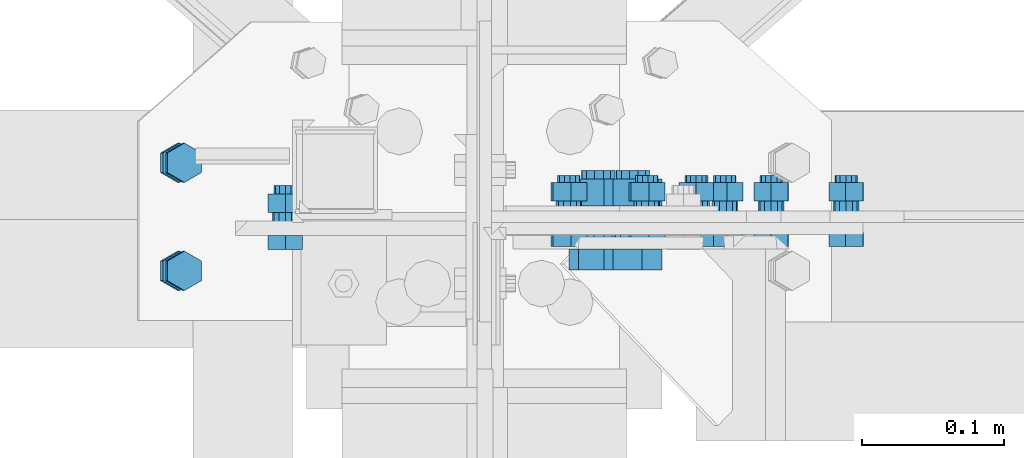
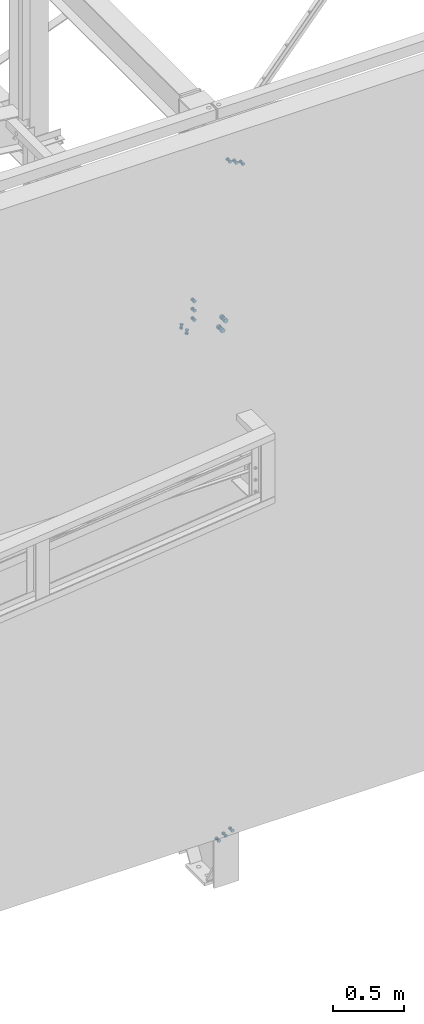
# One storey, part 109 of 3134: 5 mechanical fasteners, 4 elements without a shape of their own.
"""IFC2X3 building model written with IfcOpenShell, lengths in millimetres."""

from ifc_helpers import new_model, si_unit, frame, origin_with_axes, place, context, subcontext, project, spatial, faceted_brep, source, transform, mapped, material, type_object, element, aggregate, save


model = new_model("IFC2X3")

# Units and contexts
model_context = context("Model", 3, precision=1e-05, world=origin_with_axes())
body_context = subcontext(model_context, "Body", "Model", "MODEL_VIEW")
ifc_project = project(units=[si_unit("LENGTHUNIT", "METRE", prefix="MILLI"), si_unit("AREAUNIT", "SQUARE_METRE"), si_unit("VOLUMEUNIT", "CUBIC_METRE"), si_unit("MASSUNIT", "GRAM", prefix="KILO"), si_unit("TIMEUNIT", "SECOND"), si_unit("PLANEANGLEUNIT", "RADIAN"), si_unit("SOLIDANGLEUNIT", "STERADIAN"), si_unit("THERMODYNAMICTEMPERATUREUNIT", "DEGREE_CELSIUS"), si_unit("LUMINOUSINTENSITYUNIT", "LUMEN")], contexts=[model_context])

# Site, building, storey
site_placement = place(None, origin_with_axes())
site = spatial("IfcSite", under=ifc_project, at=site_placement, CompositionType="ELEMENT")
building_placement = place(site_placement, origin_with_axes())
building = spatial("IfcBuilding", under=site, at=building_placement, Name="Undefined", CompositionType="ELEMENT")
storey_placement = place(building_placement, origin_with_axes())
storey = spatial("IfcBuildingStorey", under=building, at=storey_placement, Name="Undefined", CompositionType="ELEMENT", Elevation=0.0)

# Assembly, mechanical fastener
assembly_1_placement = place(storey_placement, origin_with_axes())
assembly_1 = element("IfcElementAssembly", 1, at=assembly_1_placement, inside=storey, Name="300", AssemblyPlace="NOTDEFINED", PredefinedType="RIGID_FRAME")
ifc_material = material(Name="8.8")
mechanical_fastener_type = type_object("IfcMechanicalFastenerType", Name="Bolt assembly")
shared_shape_1 = source(origin_with_axes(), body_context, "Body", "Brep", [
    faceted_brep([(13.856406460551, -23.0499999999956, 0.0), (6.92820323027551, -23.0499999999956, 12.0), (-6.92820323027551, -23.0499999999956, 12.0), (-13.856406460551, -23.0499999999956, 1.69692038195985e-15), (-6.92820323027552, -23.0499999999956, -12.0), (6.9282032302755, -23.0499999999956, -12.0), (6.9282032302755, -13.0499999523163, -12.0), (-6.92820323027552, -13.0499999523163, -12.0), (-13.856406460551, -13.0499999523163, 1.69692038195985e-15), (-6.92820323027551, -13.0499999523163, 12.0), (6.92820323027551, -13.0499999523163, 12.0), (13.856406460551, -13.0499999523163, 0.0), (8.0, -13.0499999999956, 0.0), (6.92820323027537, -13.0499999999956, 4.00000000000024), (3.99999999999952, -13.0499999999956, 6.92820323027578), (-8.29068785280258e-13, -13.0499999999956, 8.0), (-4.00000000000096, -13.0499999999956, 6.92820323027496), (-6.9282032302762, -13.0499999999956, 3.99999999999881), (-8.0, -13.0499999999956, -1.65813757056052e-12), (-6.92820323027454, -13.0499999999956, -4.00000000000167), (-3.99999999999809, -13.0499999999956, -6.92820323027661), (2.47832457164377e-12, -13.0499999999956, -8.0), (4.00000000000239, -13.0499999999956, -6.92820323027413), (6.92820323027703, -13.0499999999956, -3.99999999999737), (6.92820323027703, 21.9500000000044, -3.99999999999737), (4.00000000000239, 21.9500000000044, -6.92820323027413), (2.47832457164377e-12, 21.9500000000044, -8.0), (-3.99999999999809, 21.9500000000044, -6.92820323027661), (-6.92820323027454, 21.9500000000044, -4.00000000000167), (-8.0, 21.9500000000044, -1.65813757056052e-12), (-6.9282032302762, 21.9500000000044, 3.99999999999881), (-4.00000000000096, 21.9500000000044, 6.92820323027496), (-8.29068785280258e-13, 21.9500000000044, 8.0), (3.99999999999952, 21.9500000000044, 6.92820323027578), (6.92820323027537, 21.9500000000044, 4.00000000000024), (8.0, 21.9500000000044, 0.0), (13.856406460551, 3.04999995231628, 0.0), (6.92820323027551, 3.04999995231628, 12.0), (-6.92820323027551, 3.04999995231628, 12.0), (-13.856406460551, 3.04999995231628, 1.69692038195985e-15), (-6.92820323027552, 3.04999995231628, -12.0), (6.9282032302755, 3.04999995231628, -12.0), (6.9282032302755, 16.0499999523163, -12.0), (-6.92820323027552, 16.0499999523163, -12.0), (-13.856406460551, 16.0499999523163, 1.69692038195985e-15), (-6.92820323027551, 16.0499999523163, 12.0), (6.92820323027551, 16.0499999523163, 12.0), (13.856406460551, 16.0499999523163, 0.0)], [[[0, 1, 2, 3, 4, 5]], [[6, 7, 8, 9, 10, 11]], [[0, 11, 10, 1]], [[1, 10, 9, 2]], [[2, 9, 8, 3]], [[3, 8, 7, 4]], [[4, 7, 6, 5]], [[5, 6, 11, 0]], [[12, 13, 14, 15, 16, 17, 18, 19, 20, 21, 22, 23]], [[24, 25, 26, 27, 28, 29, 30, 31, 32, 33, 34, 35]], [[12, 35, 34, 13]], [[13, 34, 33, 14]], [[14, 33, 32, 15]], [[15, 32, 31, 16]], [[16, 31, 30, 17]], [[17, 30, 29, 18]], [[18, 29, 28, 19]], [[19, 28, 27, 20]], [[20, 27, 26, 21]], [[21, 26, 25, 22]], [[22, 25, 24, 23]], [[23, 24, 35, 12]], [[36, 37, 38, 39, 40, 41]], [[42, 43, 44, 45, 46, 47]], [[36, 47, 46, 37]], [[37, 46, 45, 38]], [[38, 45, 44, 39]], [[39, 44, 43, 40]], [[40, 43, 42, 41]], [[41, 42, 47, 36]]]),
    faceted_brep([(9.0, -12.9499999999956, 0.0), (7.79422863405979, -12.9499999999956, 4.50000000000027), (4.49999999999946, -12.9499999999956, 7.79422863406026), (-9.3270238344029e-13, -12.9499999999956, 9.0), (-4.50000000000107, -12.9499999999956, 7.79422863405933), (-7.79422863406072, -12.9499999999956, 4.49999999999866), (-9.0, -12.9499999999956, -1.86540476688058e-12), (-7.79422863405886, -12.9499999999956, -4.50000000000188), (-4.49999999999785, -12.9499999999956, -7.79422863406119), (2.78811514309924e-12, -12.9499999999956, -9.0), (4.50000000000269, -12.9499999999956, -7.7942286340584), (7.79422863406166, -12.9499999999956, -4.49999999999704), (7.79422863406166, -2.94999995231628, -4.49999999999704), (4.50000000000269, -2.94999995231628, -7.7942286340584), (2.78811514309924e-12, -2.94999995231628, -9.0), (-4.49999999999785, -2.94999995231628, -7.79422863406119), (-7.79422863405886, -2.94999995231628, -4.50000000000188), (-9.0, -2.94999995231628, -1.86540476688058e-12), (-7.79422863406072, -2.94999995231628, 4.49999999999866), (-4.50000000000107, -2.94999995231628, 7.79422863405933), (-9.3270238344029e-13, -2.94999995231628, 9.0), (4.49999999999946, -2.94999995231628, 7.79422863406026), (7.79422863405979, -2.94999995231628, 4.50000000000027), (9.0, -2.94999995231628, 0.0), (9.0, -3.14999995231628, 0.0), (7.79422863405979, -3.14999995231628, 4.50000000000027), (4.49999999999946, -3.14999995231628, 7.79422863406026), (-9.3270238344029e-13, -3.14999995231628, 9.0), (-4.50000000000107, -3.14999995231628, 7.79422863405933), (-7.79422863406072, -3.14999995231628, 4.49999999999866), (-9.0, -3.14999995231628, -1.86540476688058e-12), (-7.79422863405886, -3.14999995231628, -4.50000000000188), (-4.49999999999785, -3.14999995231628, -7.79422863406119), (2.78811514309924e-12, -3.14999995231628, -9.0), (4.50000000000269, -3.14999995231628, -7.7942286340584), (7.79422863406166, -3.14999995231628, -4.49999999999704), (7.79422863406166, 3.04999995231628, -4.49999999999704), (4.50000000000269, 3.04999995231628, -7.7942286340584), (2.78811514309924e-12, 3.04999995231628, -9.0), (-4.49999999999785, 3.04999995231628, -7.79422863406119), (-7.79422863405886, 3.04999995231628, -4.50000000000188), (-9.0, 3.04999995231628, -1.86540476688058e-12), (-7.79422863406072, 3.04999995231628, 4.49999999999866), (-4.50000000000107, 3.04999995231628, 7.79422863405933), (-9.3270238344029e-13, 3.04999995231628, 9.0), (4.49999999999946, 3.04999995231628, 7.79422863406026), (7.79422863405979, 3.04999995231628, 4.50000000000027), (9.0, 3.04999995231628, 0.0)], [[[0, 1, 2, 3, 4, 5, 6, 7, 8, 9, 10, 11]], [[12, 13, 14, 15, 16, 17, 18, 19, 20, 21, 22, 23]], [[0, 23, 22, 1]], [[1, 22, 21, 2]], [[2, 21, 20, 3]], [[3, 20, 19, 4]], [[4, 19, 18, 5]], [[5, 18, 17, 6]], [[6, 17, 16, 7]], [[7, 16, 15, 8]], [[8, 15, 14, 9]], [[9, 14, 13, 10]], [[10, 13, 12, 11]], [[11, 12, 23, 0]], [[24, 25, 26, 27, 28, 29, 30, 31, 32, 33, 34, 35]], [[36, 37, 38, 39, 40, 41, 42, 43, 44, 45, 46, 47]], [[24, 47, 46, 25]], [[25, 46, 45, 26]], [[26, 45, 44, 27]], [[27, 44, 43, 28]], [[28, 43, 42, 29]], [[29, 42, 41, 30]], [[30, 41, 40, 31]], [[31, 40, 39, 32]], [[32, 39, 38, 33]], [[33, 38, 37, 34]], [[34, 37, 36, 35]], [[35, 36, 47, 24]]]),
])
mechanical_fastener_1_placement = place(assembly_1_placement, frame((44060.0000000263, 0.0, 4340.49269268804), z_axis=(1.0, 0.0, 0.0), x_axis=(0.0, 0.0, -1.0)))
mechanical_fastener_1 = element("IfcMechanicalFastener", 2, at=mechanical_fastener_1_placement, type_object=mechanical_fastener_type, material=ifc_material, Name="Bolt assembly", NominalDiameter=16.0, NominalLength=35.0, context=body_context, shape_type="MappedRepresentation", body=[
    mapped(shared_shape_1, transform((0.0, 0.0, 0.0))),
    mapped(shared_shape_1, transform((80.0, 0.0, 0.0))),
    mapped(shared_shape_1, transform((160.0, 0.0, 0.0))),
])

assembly_2_placement = place(storey_placement, origin_with_axes())
assembly_2 = element("IfcElementAssembly", 3, at=assembly_2_placement, inside=storey, AssemblyPlace="NOTDEFINED", PredefinedType="RIGID_FRAME")
shared_shape_2 = source(origin_with_axes(), body_context, "Body", "Brep", [
    faceted_brep([(13.856406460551, -21.0000017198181, 0.0), (6.92820323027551, -21.0000017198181, 12.0), (-6.92820323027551, -21.0000017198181, 12.0), (-13.856406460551, -21.0000017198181, 1.69692038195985e-15), (-6.92820323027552, -21.0000017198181, -12.0), (6.9282032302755, -21.0000017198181, -12.0), (6.9282032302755, -11.0000017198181, -12.0), (-6.92820323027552, -11.0000017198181, -12.0), (-13.856406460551, -11.0000017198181, 1.69692038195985e-15), (-6.92820323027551, -11.0000017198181, 12.0), (6.92820323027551, -11.0000017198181, 12.0), (13.856406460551, -11.0000017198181, 0.0), (8.0, -11.0000017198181, 0.0), (6.92820323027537, -11.0000017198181, 4.00000000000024), (3.99999999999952, -11.0000017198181, 6.92820323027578), (-8.29068785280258e-13, -11.0000017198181, 8.0), (-4.00000000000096, -11.0000017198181, 6.92820323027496), (-6.9282032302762, -11.0000017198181, 3.99999999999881), (-8.0, -11.0000017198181, -1.65813757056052e-12), (-6.92820323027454, -11.0000017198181, -4.00000000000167), (-3.99999999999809, -11.0000017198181, -6.92820323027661), (2.47832457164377e-12, -11.0000017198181, -8.0), (4.00000000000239, -11.0000017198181, -6.92820323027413), (6.92820323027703, -11.0000017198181, -3.99999999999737), (6.92820323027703, 29.0, -3.99999999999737), (4.00000000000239, 29.0, -6.92820323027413), (2.47832457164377e-12, 29.0, -8.0), (-3.99999999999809, 29.0, -6.92820323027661), (-6.92820323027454, 29.0, -4.00000000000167), (-8.0, 29.0, -1.65813757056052e-12), (-6.9282032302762, 29.0, 3.99999999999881), (-4.00000000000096, 29.0, 6.92820323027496), (-8.29068785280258e-13, 29.0, 8.0), (3.99999999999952, 29.0, 6.92820323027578), (6.92820323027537, 29.0, 4.00000000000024), (8.0, 29.0, 0.0), (13.856406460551, 10.9999982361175, 0.0), (6.92820323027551, 10.9999982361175, 12.0), (-6.92820323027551, 10.9999982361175, 12.0), (-13.856406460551, 10.9999982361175, 1.69692038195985e-15), (-6.92820323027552, 10.9999982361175, -12.0), (6.9282032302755, 10.9999982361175, -12.0), (6.9282032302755, 23.9999999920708, -12.0), (-6.92820323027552, 23.9999999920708, -12.0), (-13.856406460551, 23.9999999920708, 1.69692038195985e-15), (-6.92820323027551, 23.9999999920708, 12.0), (6.92820323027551, 23.9999999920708, 12.0), (13.856406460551, 23.9999999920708, 0.0)], [[[0, 1, 2, 3, 4, 5]], [[6, 7, 8, 9, 10, 11]], [[0, 11, 10, 1]], [[1, 10, 9, 2]], [[2, 9, 8, 3]], [[3, 8, 7, 4]], [[4, 7, 6, 5]], [[5, 6, 11, 0]], [[12, 13, 14, 15, 16, 17, 18, 19, 20, 21, 22, 23]], [[24, 25, 26, 27, 28, 29, 30, 31, 32, 33, 34, 35]], [[12, 35, 34, 13]], [[13, 34, 33, 14]], [[14, 33, 32, 15]], [[15, 32, 31, 16]], [[16, 31, 30, 17]], [[17, 30, 29, 18]], [[18, 29, 28, 19]], [[19, 28, 27, 20]], [[20, 27, 26, 21]], [[21, 26, 25, 22]], [[22, 25, 24, 23]], [[23, 24, 35, 12]], [[36, 37, 38, 39, 40, 41]], [[42, 43, 44, 45, 46, 47]], [[36, 47, 46, 37]], [[37, 46, 45, 38]], [[38, 45, 44, 39]], [[39, 44, 43, 40]], [[40, 43, 42, 41]], [[41, 42, 47, 36]]]),
    faceted_brep([(9.0, -10.9000017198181, 0.0), (7.79422863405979, -10.9000017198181, 4.50000000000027), (4.49999999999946, -10.9000017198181, 7.79422863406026), (-9.3270238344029e-13, -10.9000017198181, 9.0), (-4.50000000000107, -10.9000017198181, 7.79422863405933), (-7.79422863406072, -10.9000017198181, 4.49999999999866), (-9.0, -10.9000017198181, -1.86540476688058e-12), (-7.79422863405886, -10.9000017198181, -4.50000000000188), (-4.49999999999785, -10.9000017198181, -7.79422863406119), (2.78811514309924e-12, -10.9000017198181, -9.0), (4.50000000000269, -10.9000017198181, -7.7942286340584), (7.79422863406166, -10.9000017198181, -4.49999999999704), (7.79422863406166, -3.9, -4.49999999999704), (4.50000000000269, -3.9, -7.7942286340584), (2.78811514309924e-12, -3.9, -9.0), (-4.49999999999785, -3.9, -7.79422863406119), (-7.79422863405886, -3.9, -4.50000000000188), (-9.0, -3.9, -1.86540476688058e-12), (-7.79422863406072, -3.9, 4.49999999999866), (-4.50000000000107, -3.9, 7.79422863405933), (-9.3270238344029e-13, -3.9, 9.0), (4.49999999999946, -3.9, 7.79422863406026), (7.79422863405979, -3.9, 4.50000000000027), (9.0, -3.9, 0.0), (9.0, 3.9, 0.0), (7.79422863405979, 3.9, 4.50000000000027), (4.49999999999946, 3.9, 7.79422863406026), (-9.3270238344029e-13, 3.9, 9.0), (-4.50000000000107, 3.9, 7.79422863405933), (-7.79422863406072, 3.9, 4.49999999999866), (-9.0, 3.9, -1.86540476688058e-12), (-7.79422863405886, 3.9, -4.50000000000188), (-4.49999999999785, 3.9, -7.79422863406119), (2.78811514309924e-12, 3.9, -9.0), (4.50000000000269, 3.9, -7.7942286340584), (7.79422863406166, 3.9, -4.49999999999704), (7.79422863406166, 10.9999982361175, -4.49999999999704), (4.50000000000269, 10.9999982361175, -7.7942286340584), (2.78811514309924e-12, 10.9999982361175, -9.0), (-4.49999999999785, 10.9999982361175, -7.79422863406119), (-7.79422863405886, 10.9999982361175, -4.50000000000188), (-9.0, 10.9999982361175, -1.86540476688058e-12), (-7.79422863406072, 10.9999982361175, 4.49999999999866), (-4.50000000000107, 10.9999982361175, 7.79422863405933), (-9.3270238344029e-13, 10.9999982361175, 9.0), (4.49999999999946, 10.9999982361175, 7.79422863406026), (7.79422863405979, 10.9999982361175, 4.50000000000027), (9.0, 10.9999982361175, 0.0), (9.0, -3.99999624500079, 0.0), (7.79422863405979, -3.99999624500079, 4.50000000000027), (4.49999999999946, -3.99999624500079, 7.79422863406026), (-9.3270238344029e-13, -3.99999624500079, 9.0), (-4.50000000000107, -3.99999624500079, 7.79422863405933), (-7.79422863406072, -3.99999624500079, 4.49999999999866), (-9.0, -3.99999624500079, -1.86540476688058e-12), (-7.79422863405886, -3.99999624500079, -4.50000000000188), (-4.49999999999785, -3.99999624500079, -7.79422863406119), (2.78811514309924e-12, -3.99999624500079, -9.0), (4.50000000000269, -3.99999624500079, -7.7942286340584), (7.79422863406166, -3.99999624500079, -4.49999999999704), (7.79422863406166, 4.00000375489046, -4.49999999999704), (4.50000000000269, 4.00000375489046, -7.7942286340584), (2.78811514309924e-12, 4.00000375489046, -9.0), (-4.49999999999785, 4.00000375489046, -7.79422863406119), (-7.79422863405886, 4.00000375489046, -4.50000000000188), (-9.0, 4.00000375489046, -1.86540476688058e-12), (-7.79422863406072, 4.00000375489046, 4.49999999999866), (-4.50000000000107, 4.00000375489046, 7.79422863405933), (-9.3270238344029e-13, 4.00000375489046, 9.0), (4.49999999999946, 4.00000375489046, 7.79422863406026), (7.79422863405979, 4.00000375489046, 4.50000000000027), (9.0, 4.00000375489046, 0.0)], [[[0, 1, 2, 3, 4, 5, 6, 7, 8, 9, 10, 11]], [[12, 13, 14, 15, 16, 17, 18, 19, 20, 21, 22, 23]], [[0, 23, 22, 1]], [[1, 22, 21, 2]], [[2, 21, 20, 3]], [[3, 20, 19, 4]], [[4, 19, 18, 5]], [[5, 18, 17, 6]], [[6, 17, 16, 7]], [[7, 16, 15, 8]], [[8, 15, 14, 9]], [[9, 14, 13, 10]], [[10, 13, 12, 11]], [[11, 12, 23, 0]], [[24, 25, 26, 27, 28, 29, 30, 31, 32, 33, 34, 35]], [[36, 37, 38, 39, 40, 41, 42, 43, 44, 45, 46, 47]], [[24, 47, 46, 25]], [[25, 46, 45, 26]], [[26, 45, 44, 27]], [[27, 44, 43, 28]], [[28, 43, 42, 29]], [[29, 42, 41, 30]], [[30, 41, 40, 31]], [[31, 40, 39, 32]], [[32, 39, 38, 33]], [[33, 38, 37, 34]], [[34, 37, 36, 35]], [[35, 36, 47, 24]], [[48, 49, 50, 51, 52, 53, 54, 55, 56, 57, 58, 59]], [[60, 61, 62, 63, 64, 65, 66, 67, 68, 69, 70, 71]], [[48, 71, 70, 49]], [[49, 70, 69, 50]], [[50, 69, 68, 51]], [[51, 68, 67, 52]], [[52, 67, 66, 53]], [[53, 66, 65, 54]], [[54, 65, 64, 55]], [[55, 64, 63, 56]], [[56, 63, 62, 57]], [[57, 62, 61, 58]], [[58, 61, 60, 59]], [[59, 60, 71, 48]]]),
])
mechanical_fastener_2_placement = place(assembly_2_placement, frame((44259.4190258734, 0.0, -348.647370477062), z_axis=(-0.405421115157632, 0.0, 0.914130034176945), x_axis=(0.914130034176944, 0.0, 0.405421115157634)))
mechanical_fastener_2 = element("IfcMechanicalFastener", 4, at=mechanical_fastener_2_placement, type_object=mechanical_fastener_type, material=ifc_material, Name="Bolt assembly", NominalDiameter=16.0, NominalLength=40.0, context=body_context, shape_type="MappedRepresentation", body=[
    mapped(shared_shape_2, transform((0.0, 0.0, 0.0))),
    mapped(shared_shape_2, transform((59.9999999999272, 0.0, 5.40239852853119e-10))),
    mapped(shared_shape_2, transform((120.0, 0.0, 0.0))),
])
aggregate(assembly_2, [mechanical_fastener_2])

assembly_3_placement = place(storey_placement, origin_with_axes())
assembly_3 = element("IfcElementAssembly", 5, at=assembly_3_placement, inside=storey, AssemblyPlace="NOTDEFINED", PredefinedType="RIGID_FRAME")
mechanical_fastener_3_placement = place(assembly_3_placement, frame((44349.1050855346, 0.0, 5434.10633453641), z_axis=(0.480332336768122, 0.0, 0.877086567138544), x_axis=(0.877086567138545, 0.0, -0.48033233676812)))
mechanical_fastener_3 = element("IfcMechanicalFastener", 6, at=mechanical_fastener_3_placement, type_object=mechanical_fastener_type, material=ifc_material, Name="Bolt assembly", NominalDiameter=16.0, NominalLength=40.0, context=body_context, shape_type="MappedRepresentation", body=[
    mapped(shared_shape_2, transform((0.0, 0.0, 0.0))),
    mapped(shared_shape_2, transform((59.9999999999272, 0.0, 5.40239852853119e-10))),
    mapped(shared_shape_2, transform((120.0, 0.0, 0.0))),
])
aggregate(assembly_3, [mechanical_fastener_3])

# Mechanical fastener
shared_shape_3 = source(origin_with_axes(), body_context, "Body", "Brep", [
    faceted_brep([(13.856406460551, -19.2035068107, 0.0), (6.92820323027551, -19.2035068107, 12.0), (-6.92820323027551, -19.2035068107, 12.0), (-13.856406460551, -19.2035068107, 1.69692038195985e-15), (-6.92820323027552, -19.2035068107, -12.0), (6.9282032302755, -19.2035068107, -12.0), (6.9282032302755, -9.20350681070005, -12.0), (-6.92820323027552, -9.20350681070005, -12.0), (-13.856406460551, -9.20350681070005, 1.69692038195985e-15), (-6.92820323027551, -9.20350681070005, 12.0), (6.92820323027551, -9.20350681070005, 12.0), (13.856406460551, -9.20350681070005, 0.0), (8.0, -9.20350681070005, 0.0), (6.92820323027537, -9.20350681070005, 4.00000000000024), (3.99999999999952, -9.20350681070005, 6.92820323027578), (-8.29068785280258e-13, -9.20350681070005, 8.0), (-4.00000000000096, -9.20350681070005, 6.92820323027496), (-6.9282032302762, -9.20350681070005, 3.99999999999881), (-8.0, -9.20350681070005, -1.65813757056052e-12), (-6.92820323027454, -9.20350681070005, -4.00000000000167), (-3.99999999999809, -9.20350681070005, -6.92820323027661), (2.47832457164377e-12, -9.20350681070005, -8.0), (4.00000000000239, -9.20350681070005, -6.92820323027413), (6.92820323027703, -9.20350681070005, -3.99999999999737), (6.92820323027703, 25.7964931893, -3.99999999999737), (4.00000000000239, 25.7964931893, -6.92820323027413), (2.47832457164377e-12, 25.7964931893, -8.0), (-3.99999999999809, 25.7964931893, -6.92820323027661), (-6.92820323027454, 25.7964931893, -4.00000000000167), (-8.0, 25.7964931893, -1.65813757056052e-12), (-6.9282032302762, 25.7964931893, 3.99999999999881), (-4.00000000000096, 25.7964931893, 6.92820323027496), (-8.29068785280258e-13, 25.7964931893, 8.0), (3.99999999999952, 25.7964931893, 6.92820323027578), (6.92820323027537, 25.7964931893, 4.00000000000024), (8.0, 25.7964931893, 0.0), (13.856406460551, 7.99368960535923, 0.0), (6.92820323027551, 7.99368960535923, 12.0), (-6.92820323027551, 7.99368960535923, 12.0), (-13.856406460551, 7.99368960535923, 1.69692038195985e-15), (-6.92820323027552, 7.99368960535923, -12.0), (6.9282032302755, 7.99368960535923, -12.0), (6.9282032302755, 20.9936896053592, -12.0), (-6.92820323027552, 20.9936896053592, -12.0), (-13.856406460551, 20.9936896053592, 1.69692038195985e-15), (-6.92820323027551, 20.9936896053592, 12.0), (6.92820323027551, 20.9936896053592, 12.0), (13.856406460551, 20.9936896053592, 0.0)], [[[0, 1, 2, 3, 4, 5]], [[6, 7, 8, 9, 10, 11]], [[0, 11, 10, 1]], [[1, 10, 9, 2]], [[2, 9, 8, 3]], [[3, 8, 7, 4]], [[4, 7, 6, 5]], [[5, 6, 11, 0]], [[12, 13, 14, 15, 16, 17, 18, 19, 20, 21, 22, 23]], [[24, 25, 26, 27, 28, 29, 30, 31, 32, 33, 34, 35]], [[12, 35, 34, 13]], [[13, 34, 33, 14]], [[14, 33, 32, 15]], [[15, 32, 31, 16]], [[16, 31, 30, 17]], [[17, 30, 29, 18]], [[18, 29, 28, 19]], [[19, 28, 27, 20]], [[20, 27, 26, 21]], [[21, 26, 25, 22]], [[22, 25, 24, 23]], [[23, 24, 35, 12]], [[36, 37, 38, 39, 40, 41]], [[42, 43, 44, 45, 46, 47]], [[36, 47, 46, 37]], [[37, 46, 45, 38]], [[38, 45, 44, 39]], [[39, 44, 43, 40]], [[40, 43, 42, 41]], [[41, 42, 47, 36]]]),
    faceted_brep([(9.0, -0.106310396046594, 0.0), (7.79422863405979, -0.106310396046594, 4.50000000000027), (4.49999999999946, -0.106310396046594, 7.79422863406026), (-9.3270238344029e-13, -0.106310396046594, 9.0), (-4.50000000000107, -0.106310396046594, 7.79422863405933), (-7.79422863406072, -0.106310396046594, 4.49999999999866), (-9.0, -0.106310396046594, -1.86540476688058e-12), (-7.79422863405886, -0.106310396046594, -4.50000000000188), (-4.49999999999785, -0.106310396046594, -7.79422863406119), (2.78811514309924e-12, -0.106310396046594, -9.0), (4.50000000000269, -0.106310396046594, -7.7942286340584), (7.79422863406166, -0.106310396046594, -4.49999999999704), (7.79422863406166, 7.99368960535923, -4.49999999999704), (4.50000000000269, 7.99368960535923, -7.7942286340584), (2.78811514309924e-12, 7.99368960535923, -9.0), (-4.49999999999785, 7.99368960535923, -7.79422863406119), (-7.79422863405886, 7.99368960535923, -4.50000000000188), (-9.0, 7.99368960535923, -1.86540476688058e-12), (-7.79422863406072, 7.99368960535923, 4.49999999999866), (-4.50000000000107, 7.99368960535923, 7.79422863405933), (-9.3270238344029e-13, 7.99368960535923, 9.0), (4.49999999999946, 7.99368960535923, 7.79422863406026), (7.79422863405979, 7.99368960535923, 4.50000000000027), (9.0, 7.99368960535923, 0.0), (9.0, -9.10350681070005, 0.0), (7.79422863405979, -9.10350681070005, 4.50000000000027), (4.49999999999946, -9.10350681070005, 7.79422863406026), (-9.3270238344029e-13, -9.10350681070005, 9.0), (-4.50000000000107, -9.10350681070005, 7.79422863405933), (-7.79422863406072, -9.10350681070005, 4.49999999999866), (-9.0, -9.10350681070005, -1.86540476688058e-12), (-7.79422863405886, -9.10350681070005, -4.50000000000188), (-4.49999999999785, -9.10350681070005, -7.79422863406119), (2.78811514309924e-12, -9.10350681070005, -9.0), (4.50000000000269, -9.10350681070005, -7.7942286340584), (7.79422863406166, -9.10350681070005, -4.49999999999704), (7.79422863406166, 0.0964929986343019, -4.49999999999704), (4.50000000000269, 0.0964929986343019, -7.7942286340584), (2.78811514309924e-12, 0.0964929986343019, -9.0), (-4.49999999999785, 0.0964929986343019, -7.79422863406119), (-7.79422863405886, 0.0964929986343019, -4.50000000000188), (-9.0, 0.0964929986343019, -1.86540476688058e-12), (-7.79422863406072, 0.0964929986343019, 4.49999999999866), (-4.50000000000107, 0.0964929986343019, 7.79422863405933), (-9.3270238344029e-13, 0.0964929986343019, 9.0), (4.49999999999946, 0.0964929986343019, 7.79422863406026), (7.79422863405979, 0.0964929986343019, 4.50000000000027), (9.0, 0.0964929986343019, 0.0)], [[[0, 1, 2, 3, 4, 5, 6, 7, 8, 9, 10, 11]], [[12, 13, 14, 15, 16, 17, 18, 19, 20, 21, 22, 23]], [[0, 23, 22, 1]], [[1, 22, 21, 2]], [[2, 21, 20, 3]], [[3, 20, 19, 4]], [[4, 19, 18, 5]], [[5, 18, 17, 6]], [[6, 17, 16, 7]], [[7, 16, 15, 8]], [[8, 15, 14, 9]], [[9, 14, 13, 10]], [[10, 13, 12, 11]], [[11, 12, 23, 0]], [[24, 25, 26, 27, 28, 29, 30, 31, 32, 33, 34, 35]], [[36, 37, 38, 39, 40, 41, 42, 43, 44, 45, 46, 47]], [[24, 47, 46, 25]], [[25, 46, 45, 26]], [[26, 45, 44, 27]], [[27, 44, 43, 28]], [[28, 43, 42, 29]], [[29, 42, 41, 30]], [[30, 41, 40, 31]], [[31, 40, 39, 32]], [[32, 39, 38, 33]], [[33, 38, 37, 34]], [[34, 37, 36, 35]], [[35, 36, 47, 24]]]),
])
mechanical_fastener_4_placement = place(assembly_1_placement, frame((43986.7539629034, 37.9995130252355, 4119.8354625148), z_axis=(0.992623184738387, -1.63108538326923e-05, -0.12124031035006), x_axis=(-1.62000016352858e-05, -0.999999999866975, 1.90000018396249e-06)))
mechanical_fastener_4 = element("IfcMechanicalFastener", 7, at=mechanical_fastener_4_placement, type_object=mechanical_fastener_type, material=ifc_material, Name="Bolt assembly", NominalDiameter=16.0, NominalLength=35.0, context=body_context, shape_type="MappedRepresentation", body=[
    mapped(shared_shape_3, transform((0.0, 0.0, 0.0))),
    mapped(shared_shape_3, transform((76.0, 0.0, 0.0))),
])

aggregate(assembly_1, [mechanical_fastener_1, mechanical_fastener_4])

# Assembly, mechanical fastener
assembly_4_placement = place(storey_placement, origin_with_axes())
assembly_4 = element("IfcElementAssembly", 8, at=assembly_4_placement, inside=storey, Name="IPE500", AssemblyPlace="NOTDEFINED", PredefinedType="RIGID_FRAME")
shared_shape_4 = source(origin_with_axes(), body_context, "Body", "Brep", [
    faceted_brep([(20.7846096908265, -37.5, 0.0), (10.3923048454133, -37.5, 18.0), (-10.3923048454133, -37.5, 18.0), (-20.7846096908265, -37.5, 2.54538057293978e-15), (-10.3923048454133, -37.5, -18.0), (10.3923048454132, -37.5, -18.0), (10.3923048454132, -22.5, -18.0), (-10.3923048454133, -22.5, -18.0), (-20.7846096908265, -22.5, 2.54538057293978e-15), (-10.3923048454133, -22.5, 18.0), (10.3923048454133, -22.5, 18.0), (20.7846096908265, -22.5, 0.0), (12.0, -22.5, 0.0), (10.3923048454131, -22.5, 6.00000000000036), (5.99999999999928, -22.5, 10.3923048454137), (-1.24360317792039e-12, -22.5, 12.0), (-6.00000000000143, -22.5, 10.3923048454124), (-10.3923048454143, -22.5, 5.99999999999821), (-12.0, -22.5, -2.48720635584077e-12), (-10.3923048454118, -22.5, -6.00000000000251), (-5.99999999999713, -22.5, -10.3923048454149), (3.71748685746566e-12, -22.5, -12.0), (6.00000000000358, -22.5, -10.3923048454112), (10.3923048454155, -22.5, -5.99999999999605), (10.3923048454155, 32.5, -5.99999999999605), (6.00000000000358, 32.5, -10.3923048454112), (3.71748685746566e-12, 32.5, -12.0), (-5.99999999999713, 32.5, -10.3923048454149), (-10.3923048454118, 32.5, -6.00000000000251), (-12.0, 32.5, -2.48720635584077e-12), (-10.3923048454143, 32.5, 5.99999999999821), (-6.00000000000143, 32.5, 10.3923048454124), (-1.24360317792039e-12, 32.5, 12.0), (5.99999999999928, 32.5, 10.3923048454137), (10.3923048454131, 32.5, 6.00000000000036), (12.0, 32.5, 0.0), (20.7846096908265, 7.5, 0.0), (10.3923048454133, 7.5, 18.0), (-10.3923048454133, 7.5, 18.0), (-20.7846096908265, 7.5, 2.54538057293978e-15), (-10.3923048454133, 7.5, -18.0), (10.3923048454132, 7.5, -18.0), (10.3923048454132, 26.5, -18.0), (-10.3923048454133, 26.5, -18.0), (-20.7846096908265, 26.5, 2.54538057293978e-15), (-10.3923048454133, 26.5, 18.0), (10.3923048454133, 26.5, 18.0), (20.7846096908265, 26.5, 0.0)], [[[0, 1, 2, 3, 4, 5]], [[6, 7, 8, 9, 10, 11]], [[0, 11, 10, 1]], [[1, 10, 9, 2]], [[2, 9, 8, 3]], [[3, 8, 7, 4]], [[4, 7, 6, 5]], [[5, 6, 11, 0]], [[12, 13, 14, 15, 16, 17, 18, 19, 20, 21, 22, 23]], [[24, 25, 26, 27, 28, 29, 30, 31, 32, 33, 34, 35]], [[12, 35, 34, 13]], [[13, 34, 33, 14]], [[14, 33, 32, 15]], [[15, 32, 31, 16]], [[16, 31, 30, 17]], [[17, 30, 29, 18]], [[18, 29, 28, 19]], [[19, 28, 27, 20]], [[20, 27, 26, 21]], [[21, 26, 25, 22]], [[22, 25, 24, 23]], [[23, 24, 35, 12]], [[36, 37, 38, 39, 40, 41]], [[42, 43, 44, 45, 46, 47]], [[36, 47, 46, 37]], [[37, 46, 45, 38]], [[38, 45, 44, 39]], [[39, 44, 43, 40]], [[40, 43, 42, 41]], [[41, 42, 47, 36]]]),
    faceted_brep([(13.0, -22.4, 0.0), (11.2583302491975, -22.4, 6.50000000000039), (6.49999999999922, -22.4, 11.2583302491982), (-1.34723677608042e-12, -22.4, 13.0), (-6.50000000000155, -22.4, 11.2583302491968), (-11.2583302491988, -22.4, 6.49999999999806), (-13.0, -22.4, -2.69447355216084e-12), (-11.2583302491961, -22.4, -6.50000000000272), (-6.4999999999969, -22.4, -11.2583302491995), (4.02727742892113e-12, -22.4, -13.0), (6.50000000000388, -22.4, -11.2583302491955), (11.2583302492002, -22.4, -6.49999999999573), (11.2583302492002, -7.40000000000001, -6.49999999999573), (6.50000000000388, -7.40000000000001, -11.2583302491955), (4.02727742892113e-12, -7.40000000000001, -13.0), (-6.4999999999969, -7.40000000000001, -11.2583302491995), (-11.2583302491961, -7.40000000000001, -6.50000000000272), (-13.0, -7.40000000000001, -2.69447355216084e-12), (-11.2583302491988, -7.40000000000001, 6.49999999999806), (-6.50000000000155, -7.40000000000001, 11.2583302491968), (-1.34723677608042e-12, -7.40000000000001, 13.0), (6.49999999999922, -7.40000000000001, 11.2583302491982), (11.2583302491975, -7.40000000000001, 6.50000000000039), (13.0, -7.40000000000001, 0.0), (13.0, -7.6, 0.0), (11.2583302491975, -7.6, 6.50000000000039), (6.49999999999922, -7.6, 11.2583302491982), (-1.34723677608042e-12, -7.6, 13.0), (-6.50000000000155, -7.6, 11.2583302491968), (-11.2583302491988, -7.6, 6.49999999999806), (-13.0, -7.6, -2.69447355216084e-12), (-11.2583302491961, -7.6, -6.50000000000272), (-6.4999999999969, -7.6, -11.2583302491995), (4.02727742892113e-12, -7.6, -13.0), (6.50000000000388, -7.6, -11.2583302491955), (11.2583302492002, -7.6, -6.49999999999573), (11.2583302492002, 7.5, -6.49999999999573), (6.50000000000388, 7.5, -11.2583302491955), (4.02727742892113e-12, 7.5, -13.0), (-6.4999999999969, 7.5, -11.2583302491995), (-11.2583302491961, 7.5, -6.50000000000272), (-13.0, 7.5, -2.69447355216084e-12), (-11.2583302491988, 7.5, 6.49999999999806), (-6.50000000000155, 7.5, 11.2583302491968), (-1.34723677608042e-12, 7.5, 13.0), (6.49999999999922, 7.5, 11.2583302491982), (11.2583302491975, 7.5, 6.50000000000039), (13.0, 7.5, 0.0)], [[[0, 1, 2, 3, 4, 5, 6, 7, 8, 9, 10, 11]], [[12, 13, 14, 15, 16, 17, 18, 19, 20, 21, 22, 23]], [[0, 23, 22, 1]], [[1, 22, 21, 2]], [[2, 21, 20, 3]], [[3, 20, 19, 4]], [[4, 19, 18, 5]], [[5, 18, 17, 6]], [[6, 17, 16, 7]], [[7, 16, 15, 8]], [[8, 15, 14, 9]], [[9, 14, 13, 10]], [[10, 13, 12, 11]], [[11, 12, 23, 0]], [[24, 25, 26, 27, 28, 29, 30, 31, 32, 33, 34, 35]], [[36, 37, 38, 39, 40, 41, 42, 43, 44, 45, 46, 47]], [[24, 47, 46, 25]], [[25, 46, 45, 26]], [[26, 45, 44, 27]], [[27, 44, 43, 28]], [[28, 43, 42, 29]], [[29, 42, 41, 30]], [[30, 41, 40, 31]], [[31, 40, 39, 32]], [[32, 39, 38, 33]], [[33, 38, 37, 34]], [[34, 37, 36, 35]], [[35, 36, 47, 24]]]),
])
mechanical_fastener_5_placement = place(assembly_4_placement, frame((44304.4211035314, 0.0, 4098.23478768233), z_axis=(0.95204786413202, 0.0, -0.305949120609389), x_axis=(-0.305949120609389, 0.0, -0.95204786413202)))
mechanical_fastener_5 = element("IfcMechanicalFastener", 9, at=mechanical_fastener_5_placement, type_object=mechanical_fastener_type, material=ifc_material, Name="Bolt assembly", NominalDiameter=24.0, NominalLength=55.0, context=body_context, shape_type="MappedRepresentation", body=[
    mapped(shared_shape_4, transform((0.0, 0.0, 0.0))),
    mapped(shared_shape_4, transform((80.0, 0.0, 0.0))),
])
aggregate(assembly_4, [mechanical_fastener_5])

save(model, "model.ifc")
